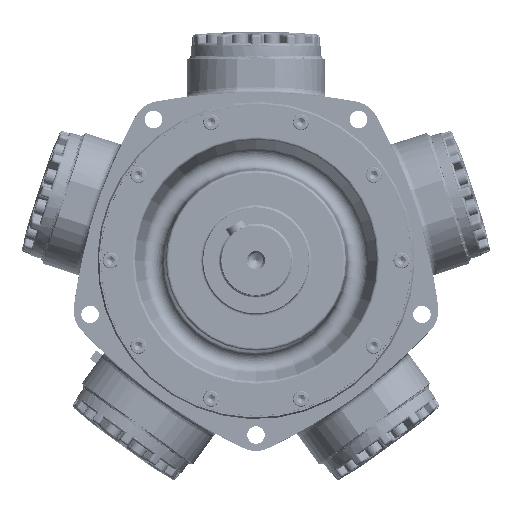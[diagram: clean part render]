
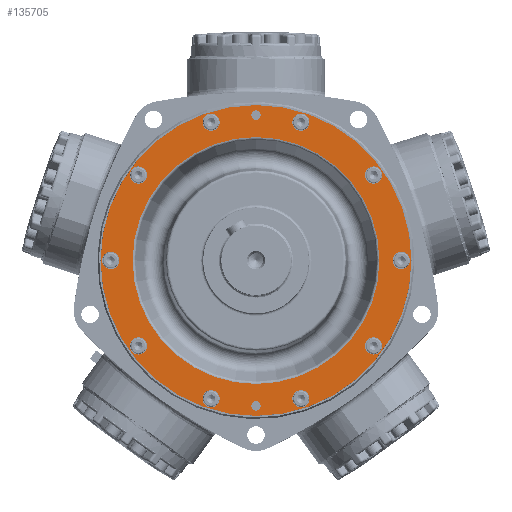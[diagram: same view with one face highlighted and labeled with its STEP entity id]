
A CAD part, top view. The second image highlights one B-rep face of the part: STEP entity #135705.
In plain terms, the highlighted planar face has unit normal (0, 0, 1).
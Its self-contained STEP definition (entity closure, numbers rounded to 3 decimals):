
#135546=CARTESIAN_POINT('',(0.,169.862,68.644));
#135547=DIRECTION('',(0.0,0.0,1.0));
#135548=DIRECTION('',(1.0,0.0,0.0));
#135549=AXIS2_PLACEMENT_3D('',#135546,#135547,#135548);
#135550=PLANE('',#135549);
#135551=CARTESIAN_POINT('',(0.,186.626,68.644));
#135552=VERTEX_POINT('',#135551);
#135553=CARTESIAN_POINT('',(0.,0.,68.644));
#135554=DIRECTION('',(0.0,0.0,1.0));
#135555=DIRECTION('',(0.0,-1.0,0.0));
#135556=AXIS2_PLACEMENT_3D('',#135553,#135554,#135555);
#135557=CIRCLE('',#135556,186.626);
#135558=EDGE_CURVE('',#135552,#135552,#135557,.T.);
#135559=ORIENTED_EDGE('',*,*,#135558,.T.);
#135560=EDGE_LOOP('',(#135559));
#135561=FACE_OUTER_BOUND('',#135560,.T.);
#135562=CARTESIAN_POINT('',(5.664,174.625,68.644));
#135563=VERTEX_POINT('',#135562);
#135564=CARTESIAN_POINT('',(0.,174.625,68.644));
#135565=DIRECTION('',(0.0,0.0,-1.0));
#135566=DIRECTION('',(1.0,0.0,0.0));
#135567=AXIS2_PLACEMENT_3D('',#135564,#135565,#135566);
#135568=CIRCLE('',#135567,5.664);
#135569=EDGE_CURVE('',#135563,#135563,#135568,.T.);
#135570=ORIENTED_EDGE('',*,*,#135569,.T.);
#135571=EDGE_LOOP('',(#135570));
#135572=FACE_BOUND('',#135571,.T.);
#135573=CARTESIAN_POINT('',(5.664,-174.625,68.644));
#135574=VERTEX_POINT('',#135573);
#135575=CARTESIAN_POINT('',(0.,-174.625,68.644));
#135576=DIRECTION('',(0.0,0.0,-1.0));
#135577=DIRECTION('',(1.0,0.0,0.0));
#135578=AXIS2_PLACEMENT_3D('',#135575,#135576,#135577);
#135579=CIRCLE('',#135578,5.664);
#135580=EDGE_CURVE('',#135574,#135574,#135579,.T.);
#135581=ORIENTED_EDGE('',*,*,#135580,.T.);
#135582=EDGE_LOOP('',(#135581));
#135583=FACE_BOUND('',#135582,.T.);
#135584=CARTESIAN_POINT('',(57.151,-175.892,68.644));
#135585=VERTEX_POINT('',#135584);
#135586=CARTESIAN_POINT('',(53.962,-166.078,68.644));
#135587=DIRECTION('',(0.,0.,-1.0));
#135588=DIRECTION('',(0.309,-0.951,0.));
#135589=AXIS2_PLACEMENT_3D('',#135586,#135587,#135588);
#135590=CIRCLE('',#135589,10.319);
#135591=EDGE_CURVE('',#135585,#135585,#135590,.T.);
#135592=ORIENTED_EDGE('',*,*,#135591,.T.);
#135593=EDGE_LOOP('',(#135592));
#135594=FACE_BOUND('',#135593,.T.);
#135595=CARTESIAN_POINT('',(-57.151,-175.892,68.644));
#135596=VERTEX_POINT('',#135595);
#135597=CARTESIAN_POINT('',(-53.962,-166.078,68.644));
#135598=DIRECTION('',(0.,0.,-1.0));
#135599=DIRECTION('',(-0.309,-0.951,0.));
#135600=AXIS2_PLACEMENT_3D('',#135597,#135598,#135599);
#135601=CIRCLE('',#135600,10.319);
#135602=EDGE_CURVE('',#135596,#135596,#135601,.T.);
#135603=ORIENTED_EDGE('',*,*,#135602,.T.);
#135604=EDGE_LOOP('',(#135603));
#135605=FACE_BOUND('',#135604,.T.);
#135606=CARTESIAN_POINT('',(-149.623,-108.707,68.644));
#135607=VERTEX_POINT('',#135606);
#135608=CARTESIAN_POINT('',(-141.275,-102.642,68.644));
#135609=DIRECTION('',(0.,0.,-1.0));
#135610=DIRECTION('',(-0.809,-0.588,0.));
#135611=AXIS2_PLACEMENT_3D('',#135608,#135609,#135610);
#135612=CIRCLE('',#135611,10.319);
#135613=EDGE_CURVE('',#135607,#135607,#135612,.T.);
#135614=ORIENTED_EDGE('',*,*,#135613,.T.);
#135615=EDGE_LOOP('',(#135614));
#135616=FACE_BOUND('',#135615,.T.);
#135617=CARTESIAN_POINT('',(-184.944,0.,68.644));
#135618=VERTEX_POINT('',#135617);
#135619=CARTESIAN_POINT('',(-174.625,0.,68.644));
#135620=DIRECTION('',(0.0,0.0,-1.0));
#135621=DIRECTION('',(-1.0,0.0,0.0));
#135622=AXIS2_PLACEMENT_3D('',#135619,#135620,#135621);
#135623=CIRCLE('',#135622,10.319);
#135624=EDGE_CURVE('',#135618,#135618,#135623,.T.);
#135625=ORIENTED_EDGE('',*,*,#135624,.T.);
#135626=EDGE_LOOP('',(#135625));
#135627=FACE_BOUND('',#135626,.T.);
#135628=CARTESIAN_POINT('',(-149.623,108.707,68.644));
#135629=VERTEX_POINT('',#135628);
#135630=CARTESIAN_POINT('',(-141.275,102.642,68.644));
#135631=DIRECTION('',(0.,0.,-1.0));
#135632=DIRECTION('',(-0.809,0.588,0.));
#135633=AXIS2_PLACEMENT_3D('',#135630,#135631,#135632);
#135634=CIRCLE('',#135633,10.319);
#135635=EDGE_CURVE('',#135629,#135629,#135634,.T.);
#135636=ORIENTED_EDGE('',*,*,#135635,.T.);
#135637=EDGE_LOOP('',(#135636));
#135638=FACE_BOUND('',#135637,.T.);
#135639=CARTESIAN_POINT('',(-57.151,175.892,68.644));
#135640=VERTEX_POINT('',#135639);
#135641=CARTESIAN_POINT('',(-53.962,166.078,68.644));
#135642=DIRECTION('',(0.,0.,-1.0));
#135643=DIRECTION('',(-0.309,0.951,0.));
#135644=AXIS2_PLACEMENT_3D('',#135641,#135642,#135643);
#135645=CIRCLE('',#135644,10.319);
#135646=EDGE_CURVE('',#135640,#135640,#135645,.T.);
#135647=ORIENTED_EDGE('',*,*,#135646,.T.);
#135648=EDGE_LOOP('',(#135647));
#135649=FACE_BOUND('',#135648,.T.);
#135650=CARTESIAN_POINT('',(57.151,175.892,68.644));
#135651=VERTEX_POINT('',#135650);
#135652=CARTESIAN_POINT('',(53.962,166.078,68.644));
#135653=DIRECTION('',(0.,0.,-1.0));
#135654=DIRECTION('',(0.309,0.951,0.));
#135655=AXIS2_PLACEMENT_3D('',#135652,#135653,#135654);
#135656=CIRCLE('',#135655,10.319);
#135657=EDGE_CURVE('',#135651,#135651,#135656,.T.);
#135658=ORIENTED_EDGE('',*,*,#135657,.T.);
#135659=EDGE_LOOP('',(#135658));
#135660=FACE_BOUND('',#135659,.T.);
#135661=CARTESIAN_POINT('',(149.623,108.707,68.644));
#135662=VERTEX_POINT('',#135661);
#135663=CARTESIAN_POINT('',(141.275,102.642,68.644));
#135664=DIRECTION('',(0.,0.,-1.0));
#135665=DIRECTION('',(0.809,0.588,0.));
#135666=AXIS2_PLACEMENT_3D('',#135663,#135664,#135665);
#135667=CIRCLE('',#135666,10.319);
#135668=EDGE_CURVE('',#135662,#135662,#135667,.T.);
#135669=ORIENTED_EDGE('',*,*,#135668,.T.);
#135670=EDGE_LOOP('',(#135669));
#135671=FACE_BOUND('',#135670,.T.);
#135672=CARTESIAN_POINT('',(149.623,-108.707,68.644));
#135673=VERTEX_POINT('',#135672);
#135674=CARTESIAN_POINT('',(141.275,-102.642,68.644));
#135675=DIRECTION('',(0.,0.,-1.0));
#135676=DIRECTION('',(0.809,-0.588,0.));
#135677=AXIS2_PLACEMENT_3D('',#135674,#135675,#135676);
#135678=CIRCLE('',#135677,10.319);
#135679=EDGE_CURVE('',#135673,#135673,#135678,.T.);
#135680=ORIENTED_EDGE('',*,*,#135679,.T.);
#135681=EDGE_LOOP('',(#135680));
#135682=FACE_BOUND('',#135681,.T.);
#135683=CARTESIAN_POINT('',(184.944,0.,68.644));
#135684=VERTEX_POINT('',#135683);
#135685=CARTESIAN_POINT('',(174.625,0.,68.644));
#135686=DIRECTION('',(0.0,0.0,-1.0));
#135687=DIRECTION('',(1.0,0.0,0.0));
#135688=AXIS2_PLACEMENT_3D('',#135685,#135686,#135687);
#135689=CIRCLE('',#135688,10.319);
#135690=EDGE_CURVE('',#135684,#135684,#135689,.T.);
#135691=ORIENTED_EDGE('',*,*,#135690,.T.);
#135692=EDGE_LOOP('',(#135691));
#135693=FACE_BOUND('',#135692,.T.);
#135694=CARTESIAN_POINT('',(0.,148.273,68.644));
#135695=VERTEX_POINT('',#135694);
#135696=CARTESIAN_POINT('',(0.,0.,68.644));
#135697=DIRECTION('',(0.0,0.0,1.0));
#135698=DIRECTION('',(0.0,-1.0,0.0));
#135699=AXIS2_PLACEMENT_3D('',#135696,#135697,#135698);
#135700=CIRCLE('',#135699,148.273);
#135701=EDGE_CURVE('',#135695,#135695,#135700,.T.);
#135702=ORIENTED_EDGE('',*,*,#135701,.F.);
#135703=EDGE_LOOP('',(#135702));
#135704=FACE_BOUND('',#135703,.T.);
#135705=ADVANCED_FACE('',(#135561,#135572,#135583,#135594,#135605,#135616,#135627,#135638,#135649,#135660,#135671,#135682,#135693,#135704),#135550,.T.);
